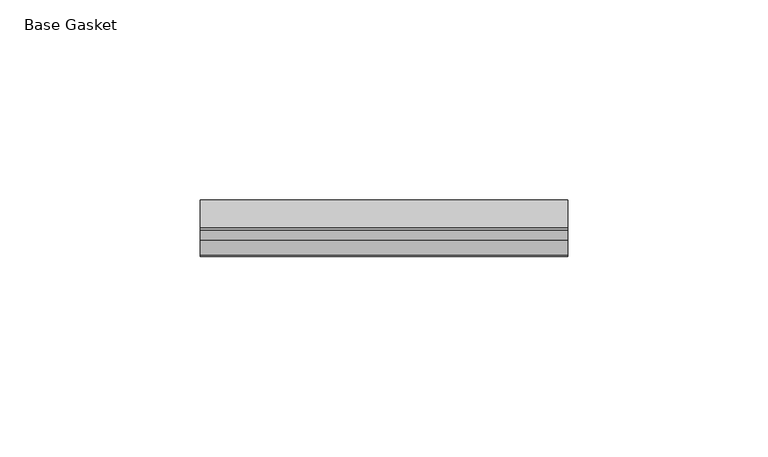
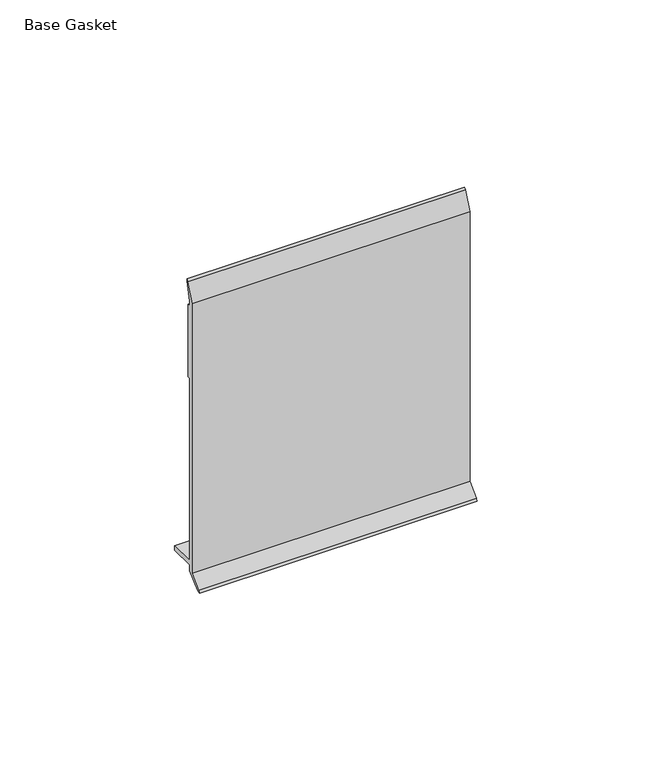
"""IFC4 building model written with IfcOpenShell, lengths in millimetres: furniture geometry, Gasket-Teknion-FHGB-AI_Healthcare-R2021 : Base Gasket."""

from ifc_helpers import new_model, si_unit, frame, origin, place, context, project, spatial, polyline, outline, extrude, source, transform, mapped, element, save


def base_gasket_173f4ce4(model_context):
    return source(origin(), model_context, "Body", "SweptSolid", [
        extrude(outline(polyline([(-3.7283812, 98.4568417), (-1.1891543, 104.587663), (-0.6755308, 105.2002997), (-0.6755308, 104.4162708), (-2.2043812, 98.4568417), (-2.2043812, 96.8693477), (-1.4106313, 96.8693477), (-1.4106313, 71.4693447), (-2.2043812, 71.4693447), (-2.2043812, 7.9398773), (6.2405171, 7.9398773), (6.2405171, 6.3818476), (-2.1334222, 6.3818476), (-2.2043812, 4.3498477), (-6.8281054, 0.3520979), (-7.8482342, 0.0), (-7.4222115, 0.6560174), (-3.7283812, 4.3498477), (-3.7283812, 98.4568417)])), frame((-1527.8982117, 0.0, 0.0), z_axis=(1.0, 0.0, 0.0), x_axis=(0.0, 1.0, 0.0)), (0.0, 0.0, 1.0), 91.6318181),
    ])


if __name__ == "__main__":
    model = new_model("IFC4")
    model_context = context("Model", 3, world=origin())
    ifc_project = project(units=[si_unit("LENGTHUNIT", "METRE", prefix="MILLI")], contexts=[model_context])
    site = spatial("IfcSite", under=ifc_project)
    building = spatial("IfcBuilding", under=site)
    placement = place(None, origin())
    base_gasket_shape = base_gasket_173f4ce4(model_context)
    element("IfcFurniture", 1, ObjectType="Gasket-Teknion-FHGB-AI_Healthcare-R2021 : Base Gasket", at=placement, inside=building, context=model_context, shape_type="MappedRepresentation", body=[
        mapped(base_gasket_shape, transform((0.0, 0.0, 0.0), x_axis=(1.0, 0.0, 0.0), y_axis=(0.0, 1.0, 0.0), z_axis=(0.0, 0.0, 1.0))),
    ])
    save(model, "model.ifc")
